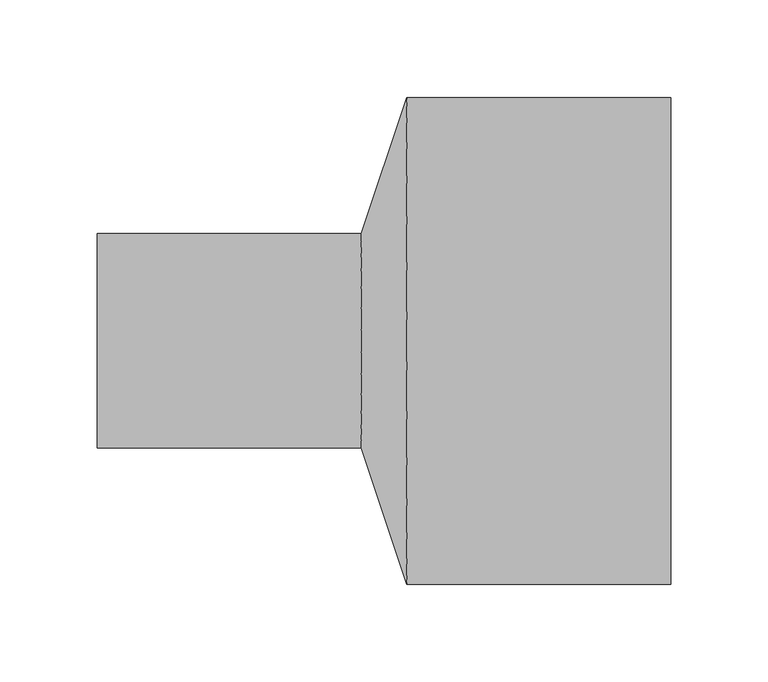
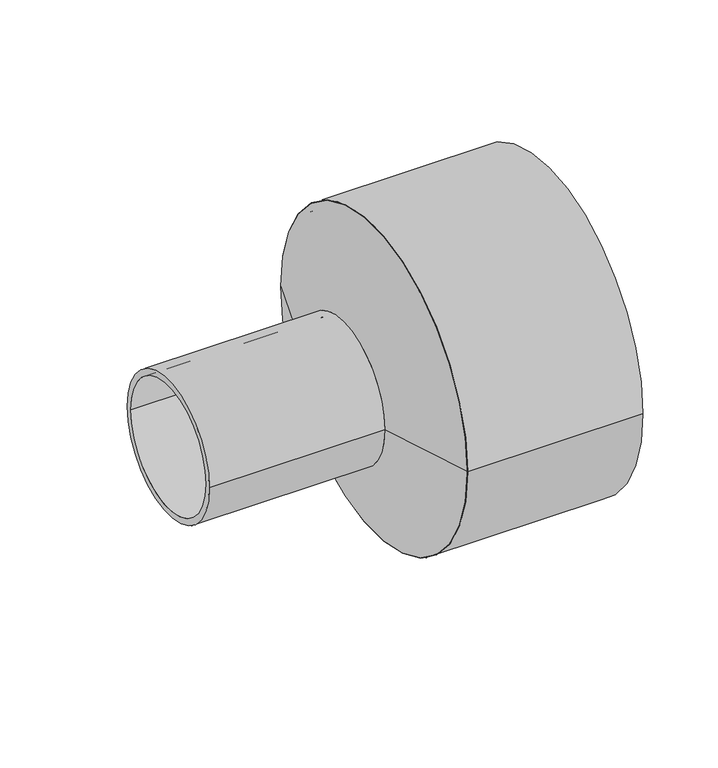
"""IFC4 building model written with IfcOpenShell, lengths in millimetres: pipe fitting geometry, EGB_VASEN_ PPR_Manguito reductor a tope WXRB110 : Manguito reductor a tope WXRB110."""

from ifc_helpers import new_model, si_unit, point, frame, origin, origin_2d, place, context, project, spatial, polyline, circle_curve, trimmed, segment, composite_curve, outline, extrude, source, transform, mapped, element, save
from ifc_brep_helpers import plane_surface, revolved_surface, advanced_brep


def pipe_fitting_49b62534(model_context):
    return source(origin(), model_context, "Body", "SolidModel", [
        extrude(outline(composite_curve([segment(trimmed(circle_curve(origin_2d(), 125.0), [point((-125.0, 0.0))], [point((125.0, 0.0))], False, "CARTESIAN"), True, "CONTINUOUS"), segment(trimmed(circle_curve(origin_2d(), 125.0), [point((125.0, 0.0))], [point((-125.0, 0.0))], False, "CARTESIAN"), True, "CONTINUOUS")], self_intersect=False), holes=[composite_curve([segment(trimmed(circle_curve(origin_2d(), 120.0), [point((-120.0, 0.0))], [point((120.0, 0.0))], True, "CARTESIAN"), True, "CONTINUOUS"), segment(trimmed(circle_curve(origin_2d(), 120.0), [point((120.0, 0.0))], [point((-120.0, 0.0))], True, "CARTESIAN"), True, "CONTINUOUS")], self_intersect=False)]), frame((11.76, 0.0, 0.0), z_axis=(1.0, 0.0, 0.0), x_axis=(0.0, 1.0, 0.0)), (0.0, 0.0, 1.0), 135.24),
        extrude(outline(composite_curve([segment(trimmed(circle_curve(origin_2d(), 55.0), [point((-55.0, 0.0))], [point((55.0, 0.0))], False, "CARTESIAN"), True, "CONTINUOUS"), segment(trimmed(circle_curve(origin_2d(), 55.0), [point((55.0, 0.0))], [point((-55.0, 0.0))], False, "CARTESIAN"), True, "CONTINUOUS")], self_intersect=False), holes=[composite_curve([segment(trimmed(circle_curve(origin_2d(), 50.0), [point((-50.0, 0.0))], [point((50.0, 0.0))], True, "CARTESIAN"), True, "CONTINUOUS"), segment(trimmed(circle_curve(origin_2d(), 50.0), [point((50.0, 0.0))], [point((-50.0, 0.0))], True, "CARTESIAN"), True, "CONTINUOUS")], self_intersect=False)]), frame((-147.0, 0.0, 0.0), z_axis=(1.0, 0.0, 0.0), x_axis=(0.0, 1.0, 0.0)), (0.0, 0.0, 1.0), 135.24),
        advanced_brep(
        [(11.76, -125.0, 0.0), (11.76, 125.0, 0.0), (-11.76, -55.0, 0.0), (-11.76, 55.0, 0.0)],
        [
            (0, 1, circle_curve(frame((11.76, 0.0, 0.0), z_axis=(1.0, 0.0, 0.0), x_axis=(0.0, -1.0, 0.0)), 125.0)),
            (1, 0, circle_curve(frame((11.76, 0.0, 0.0), z_axis=(1.0, 0.0, 0.0), x_axis=(0.0, 1.0, 0.0)), 125.0)),
            (2, 3, circle_curve(frame((-11.76, 0.0, 0.0), z_axis=(-1.0, 0.0, 0.0), x_axis=(0.0, 1.0, 0.0)), 55.0)),
            (3, 2, circle_curve(frame((-11.76, 0.0, 0.0), z_axis=(-1.0, 0.0, 0.0), x_axis=(0.0, -1.0, 0.0)), 55.0)),
            (3, 1),
            (0, 2),
        ],
        [
            plane_surface(frame((11.76, 0.0, 0.0), z_axis=(1.0, 0.0, 0.0), x_axis=(0.0, 0.0, -1.0))),
            plane_surface(frame((-11.76, 0.0, 0.0), z_axis=(-1.0, 0.0, 0.0), x_axis=(0.0, 0.0, -1.0))),
            revolved_surface(polyline([(-11.760000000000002, 54.99999999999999, 0.0), (11.760000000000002, 125.0, 0.0)]), (-30.24, 0.0, 0.0), (1.0, 0.0, 0.0)),
            revolved_surface(polyline([(-11.760000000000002, -54.99999999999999, 0.0), (11.760000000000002, -125.0, 0.0)]), (-30.24, 0.0, 0.0), (1.0, 0.0, 0.0)),
        ],
        [
            (0, [[1, 2]]),
            (1, [[3, 4]]),
            (2, [[-4, 5, -1, 6]]),
            (3, [[-3, -6, -2, -5]]),
        ],
    ),
    ])


if __name__ == "__main__":
    model = new_model("IFC4")
    model_context = context("Model", 3, world=origin())
    ifc_project = project(units=[si_unit("LENGTHUNIT", "METRE", prefix="MILLI")], contexts=[model_context])
    site = spatial("IfcSite", under=ifc_project)
    building = spatial("IfcBuilding", under=site)
    placement = place(None, origin())
    pipe_fitting_shape = pipe_fitting_49b62534(model_context)
    element("IfcPipeFitting", 1, ObjectType="EGB_VASEN_ PPR_Manguito reductor a tope WXRB110 : Manguito reductor a tope WXRB110", at=placement, inside=building, context=model_context, shape_type="MappedRepresentation", body=[
        mapped(pipe_fitting_shape, transform((0.0, 0.0, 0.0), x_axis=(1.0, 0.0, 0.0), y_axis=(0.0, 1.0, 0.0), z_axis=(0.0, 0.0, 1.0))),
    ])
    save(model, "model.ifc")
